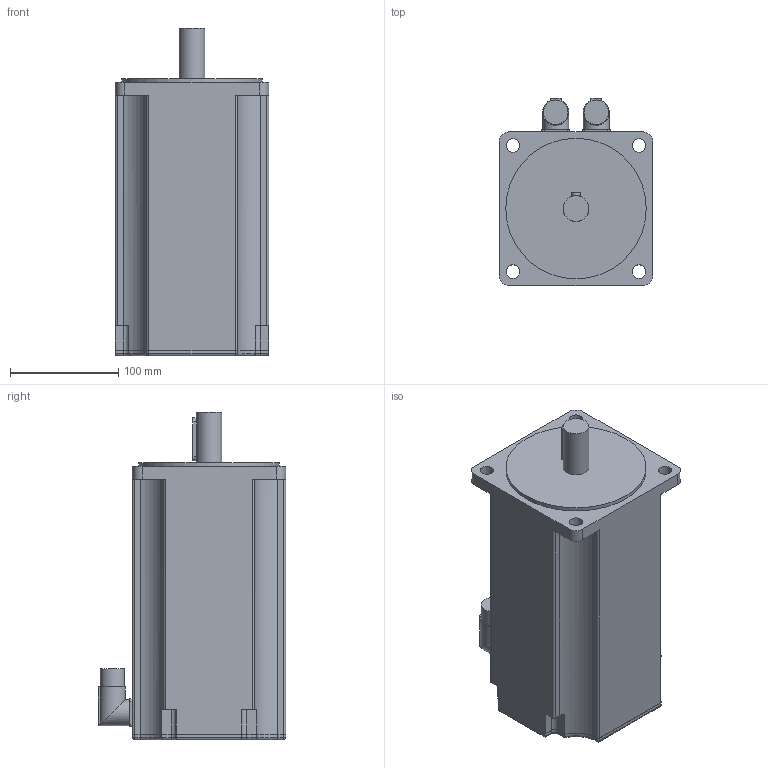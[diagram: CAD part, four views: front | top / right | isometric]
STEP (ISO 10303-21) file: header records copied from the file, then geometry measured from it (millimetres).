
FILE_DESCRIPTION(/* description */ (''),/* implementation_level */ '2;1');
FILE_NAME(/* name */ '\\Lafnas01\disegni\Archivi Lafert\3D\CAD 3D\MODELLI\Assiemi clienti\Serad\Modelli 3D Serad\B71Q\Resolver\Res With Brake\B7116Qxx6B052033.ipt.stp',/* time_stamp */ '2015-09-07T10:52:51+02:00',/* author */ ('Pastrello Ylenia'),/* organization */ (''),/* preprocessor_version */ 'ST-DEVELOPER v15.6',/* originating_system */ 'Autodesk Inventor 2015',/* authorisation */ '');
FILE_SCHEMA (('AUTOMOTIVE_DESIGN { 1 0 10303 214 3 1 1 }'));
Length unit declared in the file: millimetre
Products named in the file (1): B7116Qxx6B052033
Bounding box: 142 x 173.5 x 303 mm (x, y, z)
Volume: 4529917.1 mm3; surface area: 186251.3 mm2
Topology: 1 solids, 1 shells, 154 faces, 400 edges, 258 vertices
Faces by surface type: plane 72, cylinder 70, torus 8, sphere 4
Full cylindrical faces by diameter (mm): 12.5 x4, 22.7 x2, 24 x3, 130 x1
Entity records: 4790 total; most frequent: CARTESIAN_POINT 933, DIRECTION 828, ORIENTED_EDGE 772, EDGE_CURVE 386, AXIS2_PLACEMENT_3D 297, VERTEX_POINT 254, LINE 234, VECTOR 234
